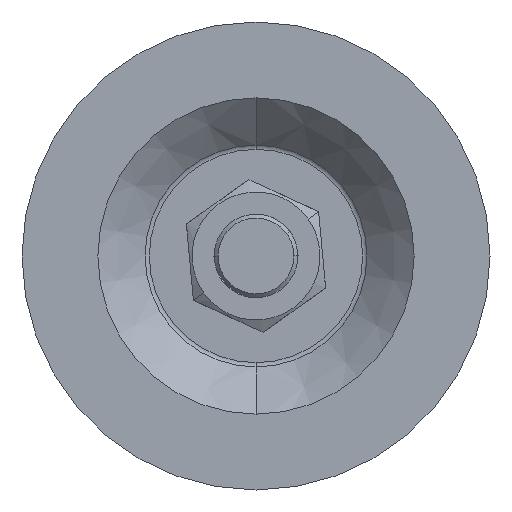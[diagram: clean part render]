
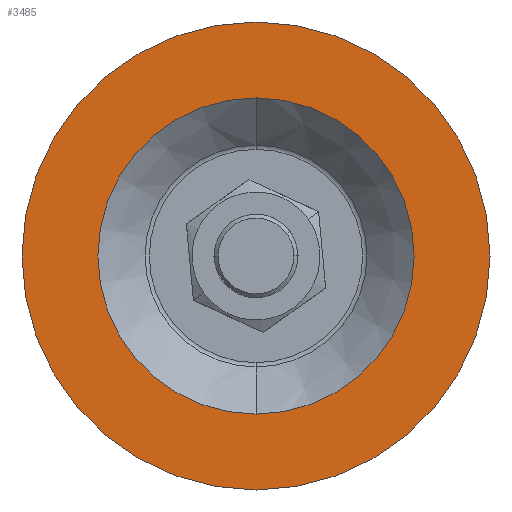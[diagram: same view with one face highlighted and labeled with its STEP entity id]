
A CAD part, front view. The second image highlights one B-rep face of the part: STEP entity #3485.
In plain terms, the highlighted planar face has unit normal (0, -1, 0).
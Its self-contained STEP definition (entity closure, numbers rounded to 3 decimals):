
#169 = CARTESIAN_POINT ( 'NONE',  ( 37., -2.4, 0. ) ) ;
#495 = EDGE_CURVE ( 'NONE', #4863, #1259, #4445, .T. ) ;
#525 = ORIENTED_EDGE ( 'NONE', *, *, #2853, .T. ) ;
#551 = DIRECTION ( 'NONE',  ( 0., 0., -1. ) ) ;
#773 = PLANE ( 'NONE',  #1475 ) ;
#943 = AXIS2_PLACEMENT_3D ( 'NONE', #2807, #6209, #6843 ) ;
#988 = CARTESIAN_POINT ( 'NONE',  ( 0., -2.4, -37. ) ) ;
#1259 = VERTEX_POINT ( 'NONE', #6449 ) ;
#1281 = ORIENTED_EDGE ( 'NONE', *, *, #2761, .F. ) ;
#1299 = DIRECTION ( 'NONE',  ( 0., 0., -1. ) ) ;
#1475 = AXIS2_PLACEMENT_3D ( 'NONE', #169, #3303, #5222 ) ;
#1650 = ORIENTED_EDGE ( 'NONE', *, *, #1830, .F. ) ;
#1830 = EDGE_CURVE ( 'NONE', #5936, #4500, #4628, .T. ) ;
#1879 = DIRECTION ( 'NONE',  ( 0., -1., 0. ) ) ;
#1895 = DIRECTION ( 'NONE',  ( 0., -1., 0. ) ) ;
#2075 = AXIS2_PLACEMENT_3D ( 'NONE', #4409, #1895, #1299 ) ;
#2082 = FACE_OUTER_BOUND ( 'NONE', #5835, .T. ) ;
#2585 = CIRCLE ( 'NONE', #3729, 37. ) ;
#2761 = EDGE_CURVE ( 'NONE', #4500, #5936, #3150, .T. ) ;
#2807 = CARTESIAN_POINT ( 'NONE',  ( 0., -2.4, 0. ) ) ;
#2853 = EDGE_CURVE ( 'NONE', #1259, #4863, #2585, .T. ) ;
#2947 = CARTESIAN_POINT ( 'NONE',  ( 0., -2.4, -25. ) ) ;
#3150 = CIRCLE ( 'NONE', #2075, 25. ) ;
#3303 = DIRECTION ( 'NONE',  ( 0., -1., 0. ) ) ;
#3485 = ADVANCED_FACE ( 'NONE', ( #2082, #5326 ), #773, .T. ) ;
#3534 = AXIS2_PLACEMENT_3D ( 'NONE', #7494, #1879, #4291 ) ;
#3729 = AXIS2_PLACEMENT_3D ( 'NONE', #8153, #4267, #551 ) ;
#4267 = DIRECTION ( 'NONE',  ( 0., -1., 0. ) ) ;
#4291 = DIRECTION ( 'NONE',  ( 0., 0., -1. ) ) ;
#4409 = CARTESIAN_POINT ( 'NONE',  ( 0., -2.4, 0. ) ) ;
#4445 = CIRCLE ( 'NONE', #943, 37. ) ;
#4500 = VERTEX_POINT ( 'NONE', #6151 ) ;
#4526 = EDGE_LOOP ( 'NONE', ( #1650, #1281 ) ) ;
#4628 = CIRCLE ( 'NONE', #3534, 25. ) ;
#4863 = VERTEX_POINT ( 'NONE', #988 ) ;
#5222 = DIRECTION ( 'NONE',  ( 0., 0., -1. ) ) ;
#5326 = FACE_BOUND ( 'NONE', #4526, .T. ) ;
#5835 = EDGE_LOOP ( 'NONE', ( #7305, #525 ) ) ;
#5936 = VERTEX_POINT ( 'NONE', #2947 ) ;
#6151 = CARTESIAN_POINT ( 'NONE',  ( 0., -2.4, 25. ) ) ;
#6209 = DIRECTION ( 'NONE',  ( 0., -1., 0. ) ) ;
#6449 = CARTESIAN_POINT ( 'NONE',  ( 0., -2.4, 37. ) ) ;
#6843 = DIRECTION ( 'NONE',  ( 0., 0., -1. ) ) ;
#7305 = ORIENTED_EDGE ( 'NONE', *, *, #495, .T. ) ;
#7494 = CARTESIAN_POINT ( 'NONE',  ( 0., -2.4, 0. ) ) ;
#8153 = CARTESIAN_POINT ( 'NONE',  ( 0., -2.4, 0. ) ) ;
